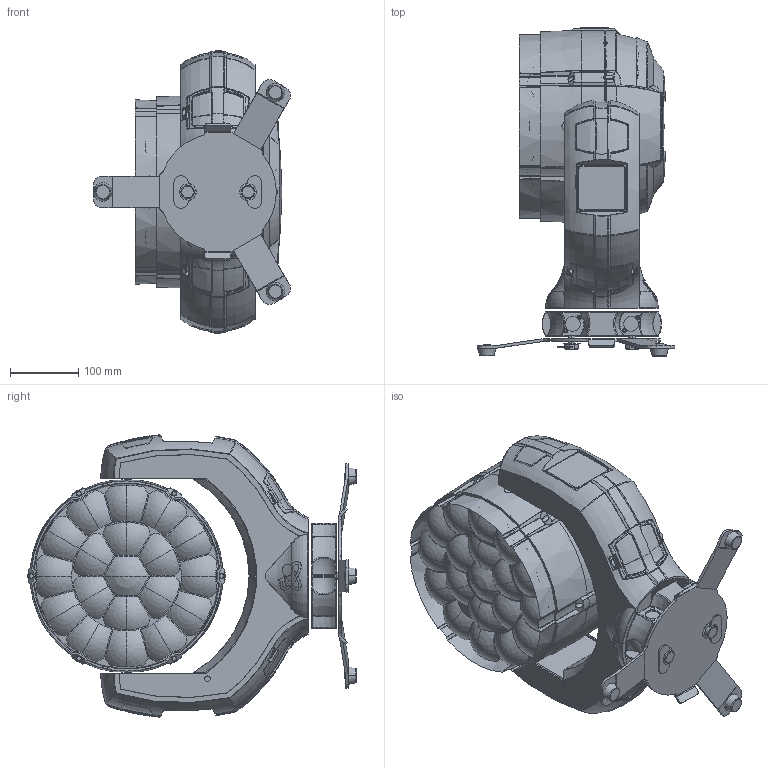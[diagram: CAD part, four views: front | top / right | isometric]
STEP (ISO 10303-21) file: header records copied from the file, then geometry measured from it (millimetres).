
FILE_DESCRIPTION((''),'2;1');
FILE_NAME('HUELLE_SW0001','2021-11-02T12:58:24',('mr'),(''),'CREO PARAMETRIC BY PTC INC, 2019080','CREO PARAMETRIC BY PTC INC, 2019080','');
FILE_SCHEMA(('AUTOMOTIVE_DESIGN { 1 0 10303 214 1 1 1 1 }'));
Products named in the file (1): HUELLE_SW0001
Bounding box: 289.91 x 482.26 x 415.02 mm (x, y, z)
Surface area: 1357576.2 mm2 (no closed solid volume)
Topology: 0 solids, 215 shells, 4519 faces, 14573 edges, 9573 vertices
Faces by surface type: cylinder 1167, bspline 1153, plane 1026, torus 478, cone 466, sphere 108, extrusion 83, revolution 38
Entity records: 268545 total; most frequent: CARTESIAN_POINT 121582, ORIENTED_EDGE 23591, DIRECTION 20519, EDGE_CURVE 14435, VERTEX_POINT 9573, AXIS2_PLACEMENT_3D 8071, B_SPLINE_CURVE_WITH_KNOTS 5490, FILL_AREA_STYLE_COLOUR 5292
